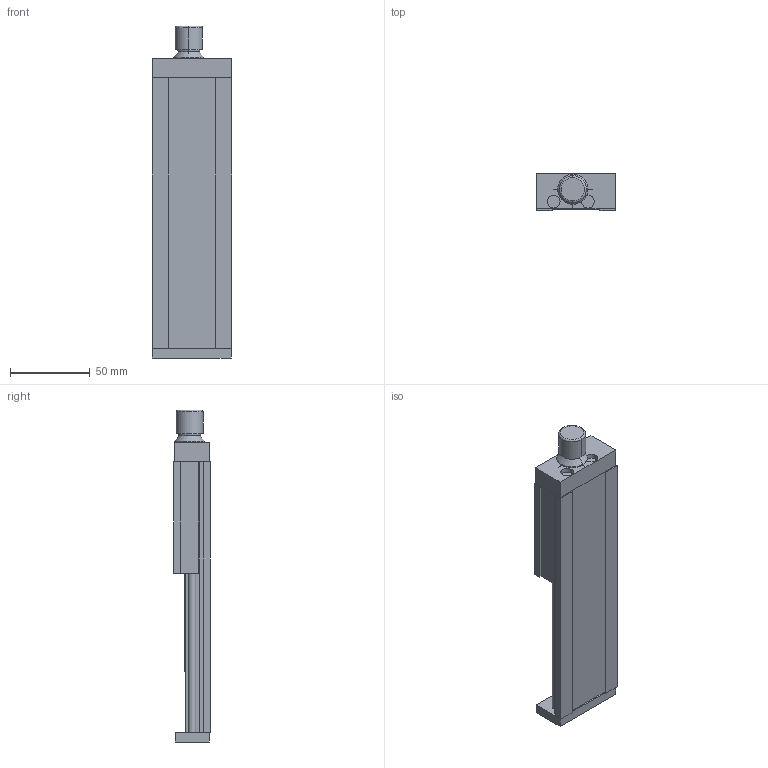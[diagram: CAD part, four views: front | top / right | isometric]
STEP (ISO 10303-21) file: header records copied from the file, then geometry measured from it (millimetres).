
FILE_DESCRIPTION (( 'STEP AP214' ), '1' );
FILE_NAME ('domiLINE 50 Hub 100.STEP', '2006-11-09T15:26:14', ( '' ), ( '' ), 'SwSTEP 2.0', 'SolidWorks 2006040', '' );
FILE_SCHEMA (( 'AUTOMOTIVE_DESIGN' ));
Length unit declared in the file: millimetre
Products named in the file (3): Aussenschlitten 50-+-D009143_ _Standard; dL 50 light-+-D018335_ _Hub 100; domiLINE 50 Hub 100
Assembly tree (2 placements, depth 2):
  domiLINE 50 Hub 100
    dL 50 light-+-D018335_ _Hub 100
    Aussenschlitten 50-+-D009143_ _Standard
Bounding box: 50 x 23 x 208.5 mm (x, y, z)
Volume: 130171.2 mm3; surface area: 54980.1 mm2
Topology: 2 solids, 2 shells, 143 faces, 368 edges, 240 vertices
Faces by surface type: plane 102, cylinder 35, torus 4, cone 2
Entity records: 5280 total; most frequent: CARTESIAN_POINT 756, DIRECTION 744, ORIENTED_EDGE 736, EDGE_CURVE 368, VECTOR 288, LINE 288, VERTEX_POINT 240, AXIS2_PLACEMENT_3D 228
